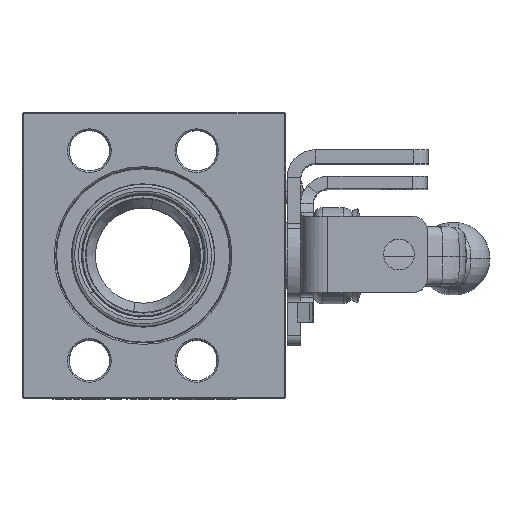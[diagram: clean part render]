
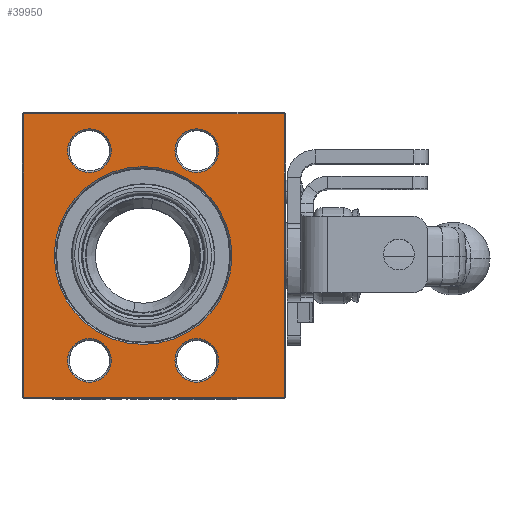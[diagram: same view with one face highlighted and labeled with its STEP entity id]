
A CAD part, top view. The second image highlights one B-rep face of the part: STEP entity #39950.
In plain terms, the highlighted planar face has unit normal (0, 0, 1).
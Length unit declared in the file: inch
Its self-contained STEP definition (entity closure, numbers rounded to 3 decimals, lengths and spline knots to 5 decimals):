
#257 = AXIS2_PLACEMENT_3D ( 'NONE', #43877, #39789, #45043 ) ;
#1083 = FACE_BOUND ( 'NONE', #23544, .T. ) ;
#1317 = CARTESIAN_POINT ( 'NONE',  ( 0.15506, 1.82169, 3.9576 ) ) ;
#1501 = CIRCLE ( 'NONE', #46258, 0.2855 ) ;
#1570 = CIRCLE ( 'NONE', #18360, 0.2855 ) ;
#1781 = ORIENTED_EDGE ( 'NONE', *, *, #30473, .T. ) ;
#1855 = CIRCLE ( 'NONE', #51235, 0.2855 ) ;
#2659 = DIRECTION ( 'NONE',  ( 0., 0., -1. ) ) ;
#3238 = DIRECTION ( 'NONE',  ( 0., 0., -1. ) ) ;
#3515 = DIRECTION ( 'NONE',  ( -1., 0., 0. ) ) ;
#3598 = VERTEX_POINT ( 'NONE', #33897 ) ;
#3610 = EDGE_CURVE ( 'NONE', #32530, #3598, #40012, .T. ) ;
#4318 = CARTESIAN_POINT ( 'NONE',  ( -0.26694, -0.05331, 3.9576 ) ) ;
#4487 = LINE ( 'NONE', #56758, #34780 ) ;
#5522 = EDGE_CURVE ( 'NONE', #44792, #39625, #9125, .T. ) ;
#5561 = AXIS2_PLACEMENT_3D ( 'NONE', #28642, #2659, #24840 ) ;
#5623 = AXIS2_PLACEMENT_3D ( 'NONE', #43221, #3238, #3515 ) ;
#5751 = EDGE_LOOP ( 'NONE', ( #50300, #21439, #7242, #38627 ) ) ;
#6123 = EDGE_LOOP ( 'NONE', ( #53035, #48310 ) ) ;
#7070 = DIRECTION ( 'NONE',  ( 0., 0., -1. ) ) ;
#7108 = CARTESIAN_POINT ( 'NONE',  ( 0.61706, 0.44669, 3.9576 ) ) ;
#7242 = ORIENTED_EDGE ( 'NONE', *, *, #5522, .T. ) ;
#7525 = VECTOR ( 'NONE', #57264, 39.37008 ) ;
#8408 = DIRECTION ( 'NONE',  ( -1., 0., 0. ) ) ;
#9125 = LINE ( 'NONE', #48825, #46681 ) ;
#11446 = CIRCLE ( 'NONE', #12400, 0.2855 ) ;
#12168 = EDGE_CURVE ( 'NONE', #13738, #31797, #49478, .T. ) ;
#12400 = AXIS2_PLACEMENT_3D ( 'NONE', #41518, #7070, #42103 ) ;
#13242 = CARTESIAN_POINT ( 'NONE',  ( 2.30856, 0.44669, 3.9576 ) ) ;
#13342 = ORIENTED_EDGE ( 'NONE', *, *, #12168, .T. ) ;
#13738 = VERTEX_POINT ( 'NONE', #42086 ) ;
#14498 = PLANE ( 'NONE',  #17926 ) ;
#14892 = CARTESIAN_POINT ( 'NONE',  ( 0.33156, 3.19669, 3.9576 ) ) ;
#15055 = VERTEX_POINT ( 'NONE', #49395 ) ;
#15436 = EDGE_CURVE ( 'NONE', #22375, #21695, #1855, .T. ) ;
#15458 = CIRCLE ( 'NONE', #49959, 0.2855 ) ;
#16273 = ORIENTED_EDGE ( 'NONE', *, *, #46819, .T. ) ;
#16736 = CARTESIAN_POINT ( 'NONE',  ( 0.90256, 0.44669, 3.9576 ) ) ;
#16746 = DIRECTION ( 'NONE',  ( 1., 0., 0. ) ) ;
#16947 = ORIENTED_EDGE ( 'NONE', *, *, #19018, .T. ) ;
#17577 = CARTESIAN_POINT ( 'NONE',  ( 0.61706, 0.44669, 3.9576 ) ) ;
#17926 = AXIS2_PLACEMENT_3D ( 'NONE', #4318, #22122, #44315 ) ;
#18360 = AXIS2_PLACEMENT_3D ( 'NONE', #21344, #53160, #30124 ) ;
#19018 = EDGE_CURVE ( 'NONE', #36480, #27134, #1570, .T. ) ;
#19043 = VECTOR ( 'NONE', #8408, 39.37008 ) ;
#21344 = CARTESIAN_POINT ( 'NONE',  ( 2.02306, 3.19669, 3.9576 ) ) ;
#21439 = ORIENTED_EDGE ( 'NONE', *, *, #41009, .T. ) ;
#21695 = VERTEX_POINT ( 'NONE', #16736 ) ;
#21828 = CARTESIAN_POINT ( 'NONE',  ( -0.26694, 3.67669, 3.9576 ) ) ;
#22122 = DIRECTION ( 'NONE',  ( 0., 0., -1. ) ) ;
#22375 = VERTEX_POINT ( 'NONE', #51362 ) ;
#22382 = ORIENTED_EDGE ( 'NONE', *, *, #3610, .T. ) ;
#22696 = LINE ( 'NONE', #21828, #19043 ) ;
#22732 = VERTEX_POINT ( 'NONE', #39297 ) ;
#23544 = EDGE_LOOP ( 'NONE', ( #47894, #13342 ) ) ;
#23704 = CARTESIAN_POINT ( 'NONE',  ( 0.61706, 3.19669, 3.9576 ) ) ;
#24036 = DIRECTION ( 'NONE',  ( -1., 0., 0. ) ) ;
#24290 = CIRCLE ( 'NONE', #5623, 1.165 ) ;
#24840 = DIRECTION ( 'NONE',  ( -1., 0., 0. ) ) ;
#25810 = EDGE_LOOP ( 'NONE', ( #16273, #16947 ) ) ;
#26017 = LINE ( 'NONE', #52586, #7525 ) ;
#26497 = EDGE_LOOP ( 'NONE', ( #1781, #22382 ) ) ;
#26974 = CARTESIAN_POINT ( 'NONE',  ( 2.02306, 3.19669, 3.9576 ) ) ;
#27134 = VERTEX_POINT ( 'NONE', #38456 ) ;
#27463 = DIRECTION ( 'NONE',  ( -1., 0., 0. ) ) ;
#27828 = EDGE_CURVE ( 'NONE', #35368, #29137, #24290, .T. ) ;
#28642 = CARTESIAN_POINT ( 'NONE',  ( 0.61706, 3.19669, 3.9576 ) ) ;
#29137 = VERTEX_POINT ( 'NONE', #41998 ) ;
#29155 = EDGE_LOOP ( 'NONE', ( #52642, #36181 ) ) ;
#30124 = DIRECTION ( 'NONE',  ( -1., 0., 0. ) ) ;
#30365 = EDGE_CURVE ( 'NONE', #21695, #22375, #15458, .T. ) ;
#30473 = EDGE_CURVE ( 'NONE', #3598, #32530, #1501, .T. ) ;
#31358 = DIRECTION ( 'NONE',  ( 0., 0., -1. ) ) ;
#31606 = DIRECTION ( 'NONE',  ( 0., 1., 0. ) ) ;
#31797 = VERTEX_POINT ( 'NONE', #13242 ) ;
#32530 = VERTEX_POINT ( 'NONE', #14892 ) ;
#33395 = CARTESIAN_POINT ( 'NONE',  ( 3.16806, 3.67669, 3.9576 ) ) ;
#33563 = EDGE_CURVE ( 'NONE', #15055, #22732, #26017, .T. ) ;
#33897 = CARTESIAN_POINT ( 'NONE',  ( 0.90256, 3.19669, 3.9576 ) ) ;
#34780 = VECTOR ( 'NONE', #16746, 39.37008 ) ;
#35368 = VERTEX_POINT ( 'NONE', #1317 ) ;
#36181 = ORIENTED_EDGE ( 'NONE', *, *, #27828, .T. ) ;
#36414 = FACE_BOUND ( 'NONE', #29155, .T. ) ;
#36480 = VERTEX_POINT ( 'NONE', #44772 ) ;
#37677 = EDGE_CURVE ( 'NONE', #31797, #13738, #11446, .T. ) ;
#38456 = CARTESIAN_POINT ( 'NONE',  ( 2.30856, 3.19669, 3.9576 ) ) ;
#38627 = ORIENTED_EDGE ( 'NONE', *, *, #45154, .T. ) ;
#39297 = CARTESIAN_POINT ( 'NONE',  ( -0.24694, -0.03331, 3.9576 ) ) ;
#39625 = VERTEX_POINT ( 'NONE', #33395 ) ;
#39780 = DIRECTION ( 'NONE',  ( -1., 0., 0. ) ) ;
#39789 = DIRECTION ( 'NONE',  ( 0., 0., -1. ) ) ;
#39950 = ADVANCED_FACE ( 'NONE', ( #36414, #41074, #50119, #49244, #1083, #54228 ), #14498, .F. ) ;
#40012 = CIRCLE ( 'NONE', #5561, 0.2855 ) ;
#41009 = EDGE_CURVE ( 'NONE', #22732, #44792, #4487, .T. ) ;
#41074 = FACE_BOUND ( 'NONE', #6123, .T. ) ;
#41518 = CARTESIAN_POINT ( 'NONE',  ( 2.02306, 0.44669, 3.9576 ) ) ;
#41998 = CARTESIAN_POINT ( 'NONE',  ( 2.48506, 1.82169, 3.9576 ) ) ;
#42086 = CARTESIAN_POINT ( 'NONE',  ( 1.73756, 0.44669, 3.9576 ) ) ;
#42103 = DIRECTION ( 'NONE',  ( -1., 0., 0. ) ) ;
#43006 = DIRECTION ( 'NONE',  ( 0., 0., -1. ) ) ;
#43221 = CARTESIAN_POINT ( 'NONE',  ( 1.32006, 1.82169, 3.9576 ) ) ;
#43877 = CARTESIAN_POINT ( 'NONE',  ( 1.32006, 1.82169, 3.9576 ) ) ;
#44315 = DIRECTION ( 'NONE',  ( -1., 0., 0. ) ) ;
#44772 = CARTESIAN_POINT ( 'NONE',  ( 1.73756, 3.19669, 3.9576 ) ) ;
#44792 = VERTEX_POINT ( 'NONE', #55785 ) ;
#44979 = CIRCLE ( 'NONE', #257, 1.165 ) ;
#45043 = DIRECTION ( 'NONE',  ( -1., 0., 0. ) ) ;
#45145 = AXIS2_PLACEMENT_3D ( 'NONE', #26974, #31358, #49138 ) ;
#45154 = EDGE_CURVE ( 'NONE', #39625, #15055, #22696, .T. ) ;
#46258 = AXIS2_PLACEMENT_3D ( 'NONE', #23704, #55793, #50557 ) ;
#46681 = VECTOR ( 'NONE', #31606, 39.37008 ) ;
#46702 = AXIS2_PLACEMENT_3D ( 'NONE', #54318, #54883, #27463 ) ;
#46819 = EDGE_CURVE ( 'NONE', #27134, #36480, #48829, .T. ) ;
#47894 = ORIENTED_EDGE ( 'NONE', *, *, #37677, .T. ) ;
#48310 = ORIENTED_EDGE ( 'NONE', *, *, #15436, .T. ) ;
#48825 = CARTESIAN_POINT ( 'NONE',  ( 3.16806, -0.05331, 3.9576 ) ) ;
#48829 = CIRCLE ( 'NONE', #45145, 0.2855 ) ;
#49138 = DIRECTION ( 'NONE',  ( -1., 0., 0. ) ) ;
#49244 = FACE_BOUND ( 'NONE', #26497, .T. ) ;
#49395 = CARTESIAN_POINT ( 'NONE',  ( -0.24694, 3.67669, 3.9576 ) ) ;
#49478 = CIRCLE ( 'NONE', #46702, 0.2855 ) ;
#49959 = AXIS2_PLACEMENT_3D ( 'NONE', #17577, #57318, #39780 ) ;
#50119 = FACE_BOUND ( 'NONE', #25810, .T. ) ;
#50300 = ORIENTED_EDGE ( 'NONE', *, *, #33563, .T. ) ;
#50557 = DIRECTION ( 'NONE',  ( -1., 0., 0. ) ) ;
#51235 = AXIS2_PLACEMENT_3D ( 'NONE', #7108, #43006, #24036 ) ;
#51362 = CARTESIAN_POINT ( 'NONE',  ( 0.33156, 0.44669, 3.9576 ) ) ;
#52586 = CARTESIAN_POINT ( 'NONE',  ( -0.24694, -0.05331, 3.9576 ) ) ;
#52642 = ORIENTED_EDGE ( 'NONE', *, *, #54980, .T. ) ;
#53035 = ORIENTED_EDGE ( 'NONE', *, *, #30365, .T. ) ;
#53160 = DIRECTION ( 'NONE',  ( 0., 0., -1. ) ) ;
#54228 = FACE_OUTER_BOUND ( 'NONE', #5751, .T. ) ;
#54318 = CARTESIAN_POINT ( 'NONE',  ( 2.02306, 0.44669, 3.9576 ) ) ;
#54883 = DIRECTION ( 'NONE',  ( 0., 0., -1. ) ) ;
#54980 = EDGE_CURVE ( 'NONE', #29137, #35368, #44979, .T. ) ;
#55785 = CARTESIAN_POINT ( 'NONE',  ( 3.16806, -0.03331, 3.9576 ) ) ;
#55793 = DIRECTION ( 'NONE',  ( 0., 0., -1. ) ) ;
#56758 = CARTESIAN_POINT ( 'NONE',  ( -0.26694, -0.03331, 3.9576 ) ) ;
#57264 = DIRECTION ( 'NONE',  ( 0., -1., 0. ) ) ;
#57318 = DIRECTION ( 'NONE',  ( 0., 0., -1. ) ) ;
